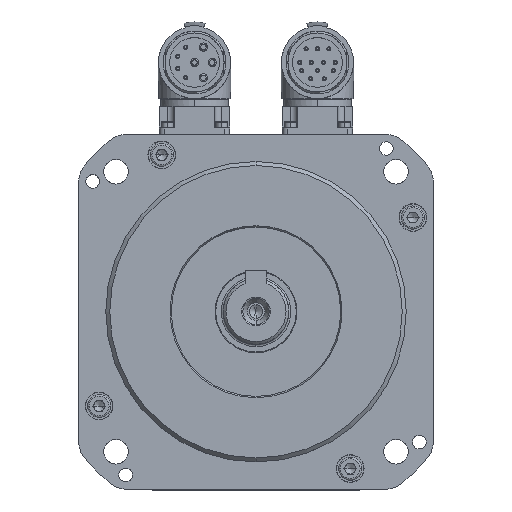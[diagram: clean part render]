
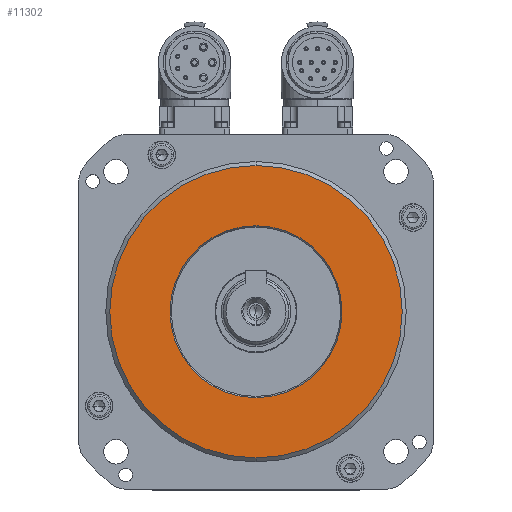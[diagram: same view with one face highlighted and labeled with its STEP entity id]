
A CAD part, top view. The second image highlights one B-rep face of the part: STEP entity #11302.
In plain terms, the highlighted planar face has unit normal (0, 0, 1).
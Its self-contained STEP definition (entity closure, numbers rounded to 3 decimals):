
#339 = CIRCLE ( 'NONE', #12452, 53.54 ) ;
#2640 = AXIS2_PLACEMENT_3D ( 'NONE', #39910, #59000, #35064 ) ;
#2690 = CARTESIAN_POINT ( 'NONE',  ( 0., 0., 66.8 ) ) ;
#7561 = EDGE_CURVE ( 'NONE', #33981, #16021, #58460, .T. ) ;
#11302 = ADVANCED_FACE ( 'NONE', ( #25278, #35062 ), #59427, .T. ) ;
#11652 = EDGE_CURVE ( 'NONE', #35209, #18462, #53028, .T. ) ;
#12452 = AXIS2_PLACEMENT_3D ( 'NONE', #50772, #17270, #27013 ) ;
#15651 = ORIENTED_EDGE ( 'NONE', *, *, #11652, .T. ) ;
#16021 = VERTEX_POINT ( 'NONE', #52250 ) ;
#16843 = DIRECTION ( 'NONE',  ( 0., -1., 0. ) ) ;
#17270 = DIRECTION ( 'NONE',  ( 0., 0., 1. ) ) ;
#18462 = VERTEX_POINT ( 'NONE', #45296 ) ;
#20057 = EDGE_CURVE ( 'NONE', #18462, #35209, #339, .T. ) ;
#22529 = EDGE_LOOP ( 'NONE', ( #28032, #48156 ) ) ;
#23296 = ORIENTED_EDGE ( 'NONE', *, *, #20057, .T. ) ;
#25278 = FACE_BOUND ( 'NONE', #22529, .T. ) ;
#27013 = DIRECTION ( 'NONE',  ( 0., -1., 0. ) ) ;
#27719 = EDGE_LOOP ( 'NONE', ( #23296, #15651 ) ) ;
#27797 = CARTESIAN_POINT ( 'NONE',  ( 0., -31.481, 66.8 ) ) ;
#28032 = ORIENTED_EDGE ( 'NONE', *, *, #35218, .F. ) ;
#33981 = VERTEX_POINT ( 'NONE', #27797 ) ;
#35062 = FACE_OUTER_BOUND ( 'NONE', #27719, .T. ) ;
#35064 = DIRECTION ( 'NONE',  ( 0., -1., 0. ) ) ;
#35209 = VERTEX_POINT ( 'NONE', #45249 ) ;
#35218 = EDGE_CURVE ( 'NONE', #16021, #33981, #57975, .T. ) ;
#35828 = DIRECTION ( 'NONE',  ( 0., 0., 1. ) ) ;
#36212 = DIRECTION ( 'NONE',  ( 0., -1., 0. ) ) ;
#36628 = DIRECTION ( 'NONE',  ( 0., 0., 1. ) ) ;
#39910 = CARTESIAN_POINT ( 'NONE',  ( 0., 0., 66.8 ) ) ;
#40429 = AXIS2_PLACEMENT_3D ( 'NONE', #41274, #50332, #16843 ) ;
#41274 = CARTESIAN_POINT ( 'NONE',  ( 0., 0., 66.8 ) ) ;
#45249 = CARTESIAN_POINT ( 'NONE',  ( 0., -53.54, 66.8 ) ) ;
#45296 = CARTESIAN_POINT ( 'NONE',  ( 0., 53.54, 66.8 ) ) ;
#48156 = ORIENTED_EDGE ( 'NONE', *, *, #7561, .F. ) ;
#49745 = AXIS2_PLACEMENT_3D ( 'NONE', #2690, #36628, #36212 ) ;
#50132 = DIRECTION ( 'NONE',  ( 0., -1., 0. ) ) ;
#50332 = DIRECTION ( 'NONE',  ( 0., 0., 1. ) ) ;
#50772 = CARTESIAN_POINT ( 'NONE',  ( 0., 0., 66.8 ) ) ;
#52250 = CARTESIAN_POINT ( 'NONE',  ( 0., 31.481, 66.8 ) ) ;
#53028 = CIRCLE ( 'NONE', #58002, 53.54 ) ;
#55150 = CARTESIAN_POINT ( 'NONE',  ( 0., 0., 66.8 ) ) ;
#57975 = CIRCLE ( 'NONE', #40429, 31.481 ) ;
#58002 = AXIS2_PLACEMENT_3D ( 'NONE', #55150, #35828, #50132 ) ;
#58460 = CIRCLE ( 'NONE', #49745, 31.481 ) ;
#59000 = DIRECTION ( 'NONE',  ( 0., 0., 1. ) ) ;
#59427 = PLANE ( 'NONE',  #2640 ) ;
